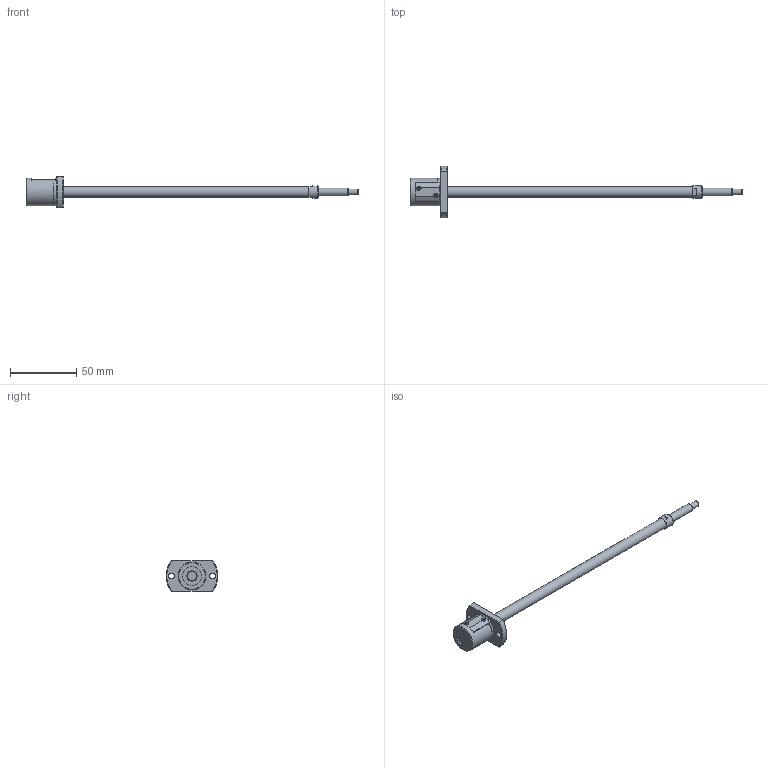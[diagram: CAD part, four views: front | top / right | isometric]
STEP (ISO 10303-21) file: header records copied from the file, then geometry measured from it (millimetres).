
FILE_DESCRIPTION( ( 'STEP AP203' ), '1' );
FILE_NAME( 'e:/temp/worker_89/temp/exporttempdir_5196_640_b6zpk/format_0/SG0804-208R250C3A1X(0).stp', '2021-10-19T00:36:21', ( 'License CC BY-ND 4.0' ), ( 'CADENAS' ), ' ', 'PARTsolutions', ' ' );
FILE_SCHEMA( ( 'CONFIG_CONTROL_DESIGN' ) );
Length unit declared in the file: millimetre
Products named in the file (3): SG0804-208R250C3A1X(0); _SG0804-208R250C3A_shaft; _SG0804_nut
Assembly tree (2 placements, depth 2):
  SG0804-208R250C3A1X(0)
    _SG0804-208R250C3A_shaft
    _SG0804_nut
Bounding box: 250 x 39 x 23 mm (x, y, z)
Volume: 22092.7 mm3; surface area: 10697.7 mm2
Topology: 2 solids, 2 shells, 72 faces, 177 edges, 116 vertices
Faces by surface type: plane 35, cylinder 23, cone 13, torus 1
Full cylindrical faces by diameter (mm): 4.5 x3, 6 x1, 8 x2, 9.5 x1, 14 x2, 20.5 x1, 21 x1
Entity records: 2112 total; most frequent: CARTESIAN_POINT 409, DIRECTION 346, ORIENTED_EDGE 292, EDGE_CURVE 146, AXIS2_PLACEMENT_3D 143, EDGE_LOOP 106, VERTEX_POINT 106, FACE_OUTER_BOUND 84
